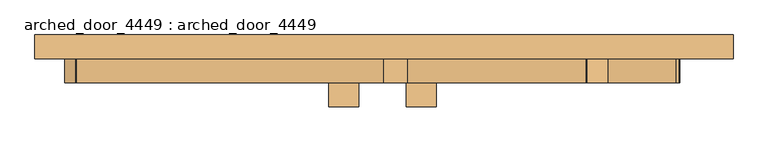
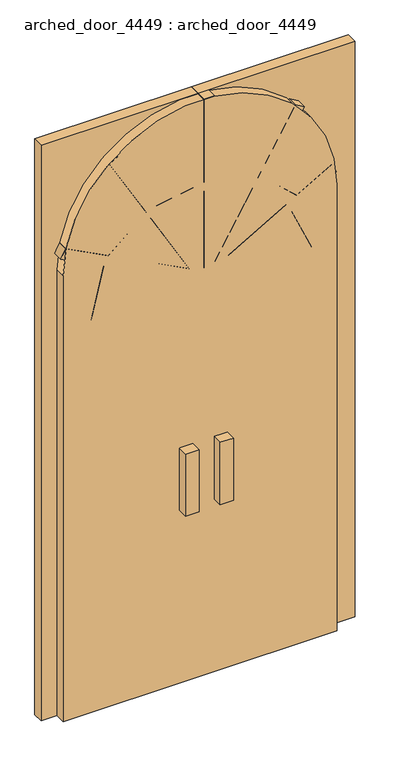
"""IFC4 building model written with IfcOpenShell, lengths in millimetres: door geometry, arched_door_4449 : arched_door_4449."""

from ifc_helpers import new_model, si_unit, point, frame, frame_2d, origin, place, context, project, spatial, polyline, circle_curve, trimmed, segment, composite_curve, outline, extrude, source, transform, mapped, element, save


def arched_door_4449_arched_door_4449_ab3fb067(model_context):
    return source(origin(), model_context, "Body", "SweptSolid", [
        extrude(outline(polyline([(3993.9650817, -469.1556301), (1108.3265118, -469.1556301), (1108.3265118, 1019.603678), (3993.9650817, 1019.603678), (3993.9650817, -469.1556301)]), holes=[polyline([(3076.2898108, 325.0), (3076.2898108, 834.1063039), (1288.0090355, 834.1063039), (1288.0090355, 325.0), (3076.2898108, 325.0)])]), frame((0.0, -50.8, 0.0), z_axis=(0.0, 1.0, 0.0), x_axis=(0.0, 0.0, 1.0)), (0.0, 0.0, 1.0), 50.8),
        extrude(outline(composite_curve([segment(polyline([(1108.3265118, -393.7733718), (1108.3265118, 906.2266282), (3343.9650817, 906.2266282)]), True, "CONTINUOUS"), segment(trimmed(circle_curve(frame_2d((3343.9650817, 256.2266282)), 650.0), [point((3343.9650817, 906.2266282))], [point((3343.9650817, -393.7733718))], False, "CARTESIAN"), True, "CONTINUOUS"), segment(polyline([(3343.9650817, -393.7733718), (1108.3265118, -393.7733718)]), True, "CONTINUOUS")], self_intersect=False)), frame((0.0, -101.6, 0.0), z_axis=(0.0, 1.0, 0.0), x_axis=(0.0, 0.0, 1.0)), (0.0, 0.0, 1.0), 101.6),
        extrude(outline(composite_curve([segment(trimmed(circle_curve(frame_2d((2623.9736226, -510.5974238)), 1371.6), [point((3287.0624679, 690.0689509))], [point((3076.2898108, 784.2757847))], True, "CARTESIAN"), True, "CONTINUOUS"), segment(polyline([(3076.2898108, 784.2757847), (3076.2898108, 834.1063039)]), True, "CONTINUOUS"), segment(trimmed(circle_curve(frame_2d((2654.8704023, -524.4324118)), 1422.4), [point((3076.2898108, 834.1063039))], [point((3313.692054, 736.1927471))], False, "CARTESIAN"), True, "CONTINUOUS"), segment(polyline([(3313.692054, 736.1927471), (3410.6402082, 904.1118759), (3454.6342988, 878.7118759), (3359.7006794, 714.2820239)]), True, "CONTINUOUS"), segment(trimmed(circle_curve(frame_2d((2375.0454168, -312.2050796)), 1422.4), [point((3359.7006794, 714.2820239))], [point((3486.9038972, 574.9208864))], False, "CARTESIAN"), True, "CONTINUOUS"), segment(polyline([(3486.9038972, 574.9208864), (3788.6186965, 752.3360027), (3814.3600792, 708.5598225), (3508.6568898, 528.7994427)]), True, "CONTINUOUS"), segment(trimmed(circle_curve(frame_2d((2186.2272555, 4.9658601)), 1422.4), [point((3508.6568898, 528.7994427))], [point((3572.1565139, 325.0))], False, "CARTESIAN"), True, "CONTINUOUS"), segment(polyline([(3572.1565139, 325.0), (3993.9650817, 325.0), (3993.9650817, 274.2), (3577.3437442, 274.2)]), True, "CONTINUOUS"), segment(trimmed(circle_curve(frame_2d((2159.9517203, 393.454394)), 1422.4), [point((3577.3437442, 274.2))], [point((3539.9691192, 48.818733))], False, "CARTESIAN"), True, "CONTINUOUS"), segment(polyline([(3539.9691192, 48.818733), (3851.9134025, -131.282383), (3826.5172711, -175.269773), (3522.3635867, 0.3334386)]), True, "CONTINUOUS"), segment(trimmed(circle_curve(frame_2d((2366.398382, 829.1676835)), 1422.4), [point((3522.3635867, 0.3334386))], [point((3369.638209, -179.1634177))], False, "CARTESIAN"), True, "CONTINUOUS"), segment(polyline([(3369.638209, -179.1634177), (3475.0536288, -381.5623542), (3430.0408074, -405.0063779), (3324.6418341, -202.6390191)]), True, "CONTINUOUS"), segment(trimmed(circle_curve(frame_2d((2875.1384128, 1146.8677183)), 1422.4), [point((3324.6418341, -202.6390191))], [point((3076.2898108, -261.2373471))], False, "CARTESIAN"), True, "CONTINUOUS"), segment(polyline([(3076.2898108, -261.2373471), (3076.2898108, -215.6805478)]), True, "CONTINUOUS"), segment(trimmed(circle_curve(frame_2d((2878.4088691, 1141.570237)), 1371.6), [point((3076.2898108, -215.6805478))], [point((3303.6993626, -162.4292094))], True, "CARTESIAN"), True, "CONTINUOUS"), segment(polyline([(3303.6993626, -162.4292094), (3113.4867554, 202.7813969), (3076.2898108, 274.2), (3076.2898108, 325.0), (3125.6065531, 410.4191033), (3287.0624679, 690.0689509)]), True, "CONTINUOUS")], self_intersect=False), holes=[composite_curve([segment(polyline([(3481.9275066, 23.6792203), (3170.2784117, 203.6099092), (3346.9957257, -135.689564)]), True, "CONTINUOUS"), segment(trimmed(circle_curve(frame_2d((2370.7015393, 827.7087034)), 1371.6), [point((3346.9957257, -135.689564))], [point((3481.9275066, 23.6792203))], True, "CARTESIAN"), True, "CONTINUOUS")], self_intersect=False), composite_curve([segment(trimmed(circle_curve(frame_2d((2160.5747047, 305.4279381)), 1371.6), [point((3511.0315014, 65.5258744))], [point((3531.8191671, 274.2))], True, "CARTESIAN"), True, "CONTINUOUS"), segment(polyline([(3531.8191671, 274.2), (3149.5973137, 274.2), (3511.0315014, 65.5258744)]), True, "CONTINUOUS")], self_intersect=False), composite_curve([segment(polyline([(3329.8787359, 662.6289025), (3172.5029352, 390.0460199), (3447.0351899, 551.477186)]), True, "CONTINUOUS"), segment(trimmed(circle_curve(frame_2d((2446.0615817, -386.2532633)), 1371.6), [point((3447.0351899, 551.477186))], [point((3329.8787359, 662.6289025))], True, "CARTESIAN"), True, "CONTINUOUS")], self_intersect=False), composite_curve([segment(trimmed(circle_curve(frame_2d((2214.6806437, -52.6795235)), 1371.6), [point((3533.2574285, 325.0))], [point((3467.8706096, 504.8161888))], True, "CARTESIAN"), True, "CONTINUOUS"), segment(polyline([(3467.8706096, 504.8161888), (3162.0725107, 325.0), (3533.2574285, 325.0)]), True, "CONTINUOUS")], self_intersect=False)]), frame((0.0, -101.6, 0.0), z_axis=(0.0, 1.0, 0.0), x_axis=(0.0, 0.0, 1.0)), (0.0, 0.0, 1.0), 101.6),
        extrude(outline(polyline([(386.1247361, -152.4), (322.6247361, -152.4), (322.6247361, 0.0), (386.1247361, 0.0), (386.1247361, -152.4)])), frame((0.0, 0.0, 1976.5106989), z_axis=(0.0, 0.0, 1.0), x_axis=(1.0, 0.0, 0.0)), (0.0, 0.0, 1.0), 311.15),
        extrude(outline(polyline([(221.0247361, -152.4), (157.5247361, -152.4), (157.5247361, 0.0), (221.0247361, 0.0), (221.0247361, -152.4)])), frame((0.0, 0.0, 1976.5106989), z_axis=(0.0, 0.0, 1.0), x_axis=(1.0, 0.0, 0.0)), (0.0, 0.0, 1.0), 311.15),
        extrude(outline(polyline([(3076.2898108, -385.6), (1288.0090355, -385.6), (1288.0090355, 274.2), (3076.2898108, 274.2), (3076.2898108, -385.6)]), holes=[polyline([(2928.4838861, -285.9798636), (2928.4838861, 157.5247361), (1338.8090355, 157.5247361), (1338.8090355, -285.9798636), (2928.4838861, -285.9798636)])]), frame((0.0, -50.8, 0.0), z_axis=(0.0, 1.0, 0.0), x_axis=(0.0, 0.0, 1.0)), (0.0, 0.0, 1.0), 50.8),
    ])


if __name__ == "__main__":
    model = new_model("IFC4")
    model_context = context("Model", 3, world=origin())
    ifc_project = project(units=[si_unit("LENGTHUNIT", "METRE", prefix="MILLI")], contexts=[model_context])
    site = spatial("IfcSite", under=ifc_project)
    building = spatial("IfcBuilding", under=site)
    placement = place(None, origin())
    arched_door_4449_arched_door_4449_shape = arched_door_4449_arched_door_4449_ab3fb067(model_context)
    element("IfcDoor", 1, ObjectType="arched_door_4449 : arched_door_4449", at=placement, inside=building, context=model_context, shape_type="MappedRepresentation", body=[
        mapped(arched_door_4449_arched_door_4449_shape, transform((0.0, 0.0, 0.0), x_axis=(1.0, 0.0, 0.0), y_axis=(0.0, 1.0, 0.0), z_axis=(0.0, 0.0, 1.0))),
    ])
    save(model, "model.ifc")
